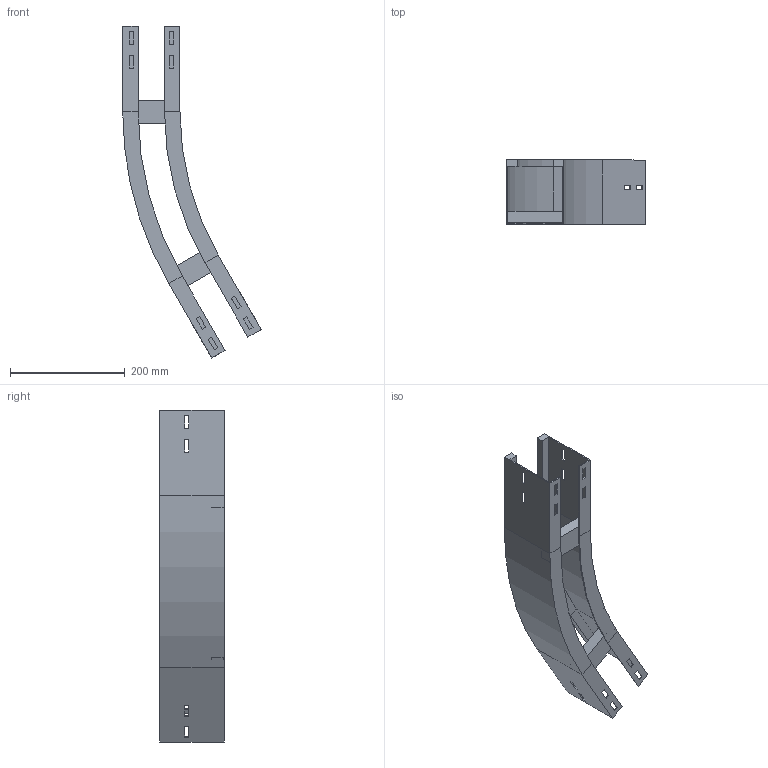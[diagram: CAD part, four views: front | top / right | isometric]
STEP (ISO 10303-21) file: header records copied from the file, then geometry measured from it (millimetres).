
FILE_DESCRIPTION (( 'STEP AP214' ), '1' );
FILE_NAME ('12B5J100.step', '2025-02-21T15:08:10', ( '' ), ( '' ), 'SwSTEP 2.0', 'SolidWorks 2023', '' );
FILE_SCHEMA (( 'AUTOMOTIVE_DESIGN' ));
Length unit declared in the file: millimetre
Products named in the file (4): TRAVERSINO_100; 12B5J100; A2_LONGH.INTERNO 30°_H112.5_R500; A2_LONGH.ESTERNO 30°_H112.5_R500+100
Assembly tree (4 placements, depth 2):
  12B5J100
    A2_LONGH.INTERNO 30°_H112.5_R500
    A2_LONGH.ESTERNO 30°_H112.5_R500+100
    TRAVERSINO_100  x2
Bounding box: 241.99 x 112.5 x 579.9 mm (x, y, z)
Volume: 699764.7 mm3; surface area: 390991.1 mm2
Topology: 4 solids, 4 shells, 128 faces, 328 edges, 208 vertices
Faces by surface type: plane 120, cylinder 8
Entity records: 3813 total; most frequent: CARTESIAN_POINT 645, ORIENTED_EDGE 632, DIRECTION 590, EDGE_CURVE 316, LINE 300, VECTOR 300, VERTEX_POINT 200, EDGE_LOOP 154
